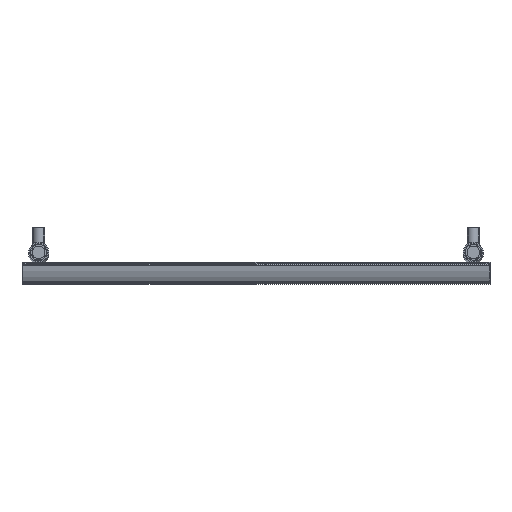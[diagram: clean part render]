
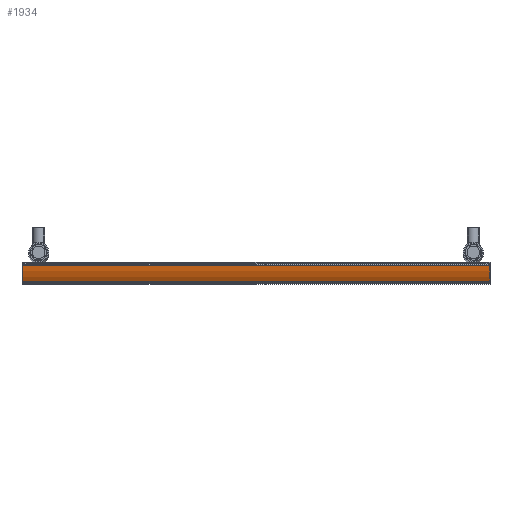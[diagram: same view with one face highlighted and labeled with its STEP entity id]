
A CAD part, top view. The second image highlights one B-rep face of the part: STEP entity #1934.
In plain terms, the highlighted cylindrical face has radius 51.638 mm (diameter 103.277 mm), a partial arc.
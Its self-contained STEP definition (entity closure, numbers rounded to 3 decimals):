
#227=LINE('',#6036,#261);
#228=LINE('',#6039,#262);
#261=VECTOR('',#2355,10.);
#262=VECTOR('',#2358,10.);
#673=FACE_OUTER_BOUND('',#900,.T.);
#900=EDGE_LOOP('',(#1691,#1692,#1693,#1694));
#950=CIRCLE('',#2081,51.638);
#951=CIRCLE('',#2082,51.638);
#1130=VERTEX_POINT('',#6032);
#1131=VERTEX_POINT('',#6033);
#1132=VERTEX_POINT('',#6035);
#1133=VERTEX_POINT('',#6037);
#1326=EDGE_CURVE('',#1130,#1131,#950,.T.);
#1327=EDGE_CURVE('',#1130,#1132,#227,.T.);
#1328=EDGE_CURVE('',#1133,#1132,#951,.T.);
#1329=EDGE_CURVE('',#1131,#1133,#228,.T.);
#1691=ORIENTED_EDGE('',*,*,#1326,.F.);
#1692=ORIENTED_EDGE('',*,*,#1327,.T.);
#1693=ORIENTED_EDGE('',*,*,#1328,.F.);
#1694=ORIENTED_EDGE('',*,*,#1329,.F.);
#1866=CYLINDRICAL_SURFACE('',#2080,51.638);
#1934=ADVANCED_FACE('',(#673),#1866,.T.);
#2080=AXIS2_PLACEMENT_3D('',#6031,#2351,#2352);
#2081=AXIS2_PLACEMENT_3D('',#6034,#2353,#2354);
#2082=AXIS2_PLACEMENT_3D('',#6038,#2356,#2357);
#2351=DIRECTION('center_axis',(0.,0.,-1.));
#2352=DIRECTION('ref_axis',(0.837,-0.547,0.));
#2353=DIRECTION('center_axis',(0.,0.,1.));
#2354=DIRECTION('ref_axis',(0.837,-0.547,0.));
#2355=DIRECTION('',(0.,0.,-1.));
#2356=DIRECTION('center_axis',(0.,0.,-1.));
#2357=DIRECTION('ref_axis',(0.837,-0.547,0.));
#2358=DIRECTION('',(0.,0.,-1.));
#6031=CARTESIAN_POINT('Origin',(-41.424,-0.617,0.));
#6032=CARTESIAN_POINT('',(1.804,-28.863,0.));
#6033=CARTESIAN_POINT('',(10.063,-4.573,0.));
#6034=CARTESIAN_POINT('Origin',(-41.424,-0.617,0.));
#6035=CARTESIAN_POINT('',(1.804,-28.863,-700.));
#6036=CARTESIAN_POINT('',(1.804,-28.863,0.));
#6037=CARTESIAN_POINT('',(10.063,-4.573,-700.));
#6038=CARTESIAN_POINT('Origin',(-41.424,-0.617,-700.));
#6039=CARTESIAN_POINT('',(10.063,-4.573,0.));
